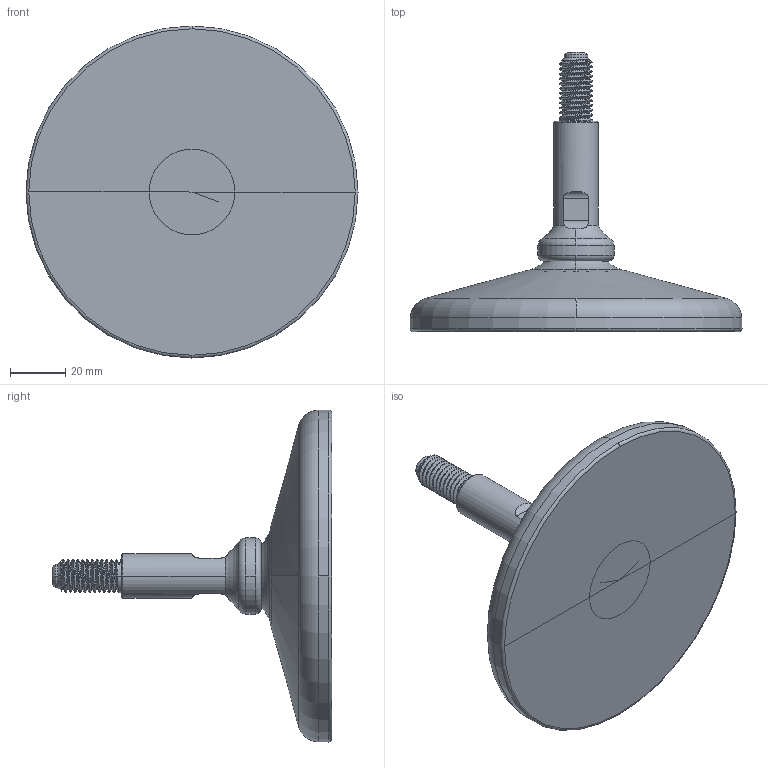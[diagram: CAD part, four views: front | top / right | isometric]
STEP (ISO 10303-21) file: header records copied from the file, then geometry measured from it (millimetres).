
FILE_DESCRIPTION((''),'1');
FILE_NAME('LALAM_M12.step','2024-03-04T08:53:31',(''),(''),'','','');
FILE_SCHEMA(('AUTOMOTIVE_DESIGN { 1 0 10303 214 1 1 1 1 }'));
Length unit declared in the file: metre
Products named in the file (6): LALAM connector 01; LALAM part 02; LALAM seal 01; LALAM part 04; LALAM part 05
Assembly tree (5 placements, depth 3):
  LALAM connector 01
    LALAM connector 01
      LALAM part 02
      LALAM seal 01
      LALAM part 04
      LALAM part 05
Bounding box: 120 x 101 x 120 mm (x, y, z)
Volume: 193253.1 mm3; surface area: 39604 mm2
Topology: 4 solids, 4 shells, 130 faces, 319 edges, 205 vertices
Faces by surface type: cylinder 63, torus 24, plane 21, cone 19, bspline 3
Entity records: 74704 total; most frequent: CARTESIAN_POINT 71462, DIRECTION 677, ORIENTED_EDGE 634, EDGE_CURVE 317, AXIS2_PLACEMENT_3D 294, VERTEX_POINT 205, CIRCLE 158, EDGE_LOOP 144
